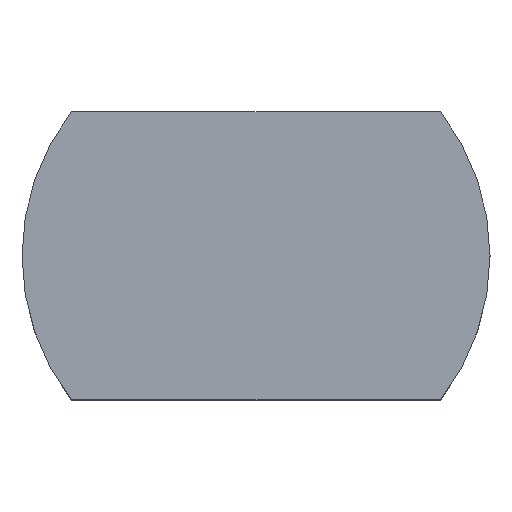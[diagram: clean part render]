
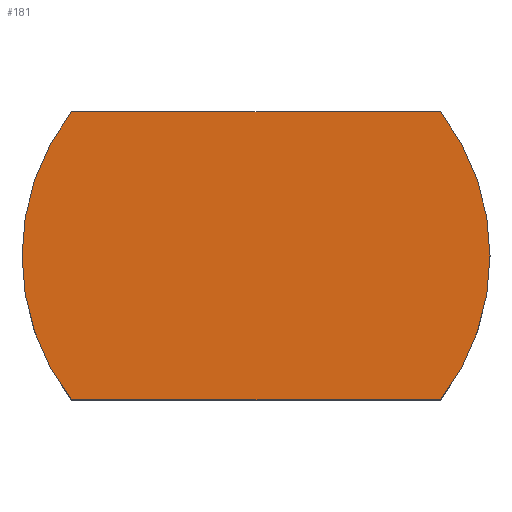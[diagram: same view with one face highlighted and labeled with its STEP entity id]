
A CAD part, top view. The second image highlights one B-rep face of the part: STEP entity #181.
In plain terms, the highlighted planar face has unit normal (0, 0, 1).
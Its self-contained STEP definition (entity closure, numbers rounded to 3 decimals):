
#2 = CARTESIAN_POINT ( 'NONE',  ( 0., 0., 51.5 ) ) ;
#6 = DIRECTION ( 'NONE',  ( 0., 0., 1. ) ) ;
#8 = DIRECTION ( 'NONE',  ( 1., 0., 0. ) ) ;
#63 = DIRECTION ( 'NONE',  ( 1., 0., 0. ) ) ;
#64 = CARTESIAN_POINT ( 'NONE',  ( 0., 0., 51.5 ) ) ;
#68 = PLANE ( 'NONE',  #236 ) ;
#83 = DIRECTION ( 'NONE',  ( 0., 0., 1. ) ) ;
#98 = CARTESIAN_POINT ( 'NONE',  ( 0., 2., 51.5 ) ) ;
#100 = DIRECTION ( 'NONE',  ( 1., 0., 0. ) ) ;
#104 = DIRECTION ( 'NONE',  ( 1., 0., 0. ) ) ;
#117 = CARTESIAN_POINT ( 'NONE',  ( 0., 0., 51.5 ) ) ;
#119 = DIRECTION ( 'NONE',  ( -1., 0., 0. ) ) ;
#122 = DIRECTION ( 'NONE',  ( 0., 0., 1. ) ) ;
#123 = CARTESIAN_POINT ( 'NONE',  ( 0., -2., 51.5 ) ) ;
#136 = CARTESIAN_POINT ( 'NONE',  ( -3.25, 0., 51.5 ) ) ;
#138 = CARTESIAN_POINT ( 'NONE',  ( -2.562, -2., 51.5 ) ) ;
#142 = CARTESIAN_POINT ( 'NONE',  ( 2.562, -2., 51.5 ) ) ;
#144 = CARTESIAN_POINT ( 'NONE',  ( 2.562, 2., 51.5 ) ) ;
#145 = DIRECTION ( 'NONE',  ( 0., 0., 1. ) ) ;
#151 = CARTESIAN_POINT ( 'NONE',  ( 0., 0., 51.5 ) ) ;
#152 = CARTESIAN_POINT ( 'NONE',  ( -2.562, 2., 51.5 ) ) ;
#161 = DIRECTION ( 'NONE',  ( 1., 0., 0. ) ) ;
#181 = ADVANCED_FACE ( 'NONE', ( #355 ), #68, .T. ) ;
#193 = EDGE_CURVE ( 'NONE', #373, #378, #367, .T. ) ;
#202 = AXIS2_PLACEMENT_3D ( 'NONE', #117, #122, #100 ) ;
#208 = EDGE_CURVE ( 'NONE', #373, #351, #392, .T. ) ;
#213 = EDGE_CURVE ( 'NONE', #385, #378, #393, .T. ) ;
#227 = AXIS2_PLACEMENT_3D ( 'NONE', #151, #145, #161 ) ;
#233 = EDGE_CURVE ( 'NONE', #385, #341, #403, .T. ) ;
#236 = AXIS2_PLACEMENT_3D ( 'NONE', #64, #83, #63 ) ;
#253 = AXIS2_PLACEMENT_3D ( 'NONE', #2, #6, #8 ) ;
#281 = EDGE_LOOP ( 'NONE', ( #335, #338, #303, #299, #306 ) ) ;
#299 = ORIENTED_EDGE ( 'NONE', *, *, #208, .F. ) ;
#303 = ORIENTED_EDGE ( 'NONE', *, *, #444, .T. ) ;
#306 = ORIENTED_EDGE ( 'NONE', *, *, #193, .T. ) ;
#335 = ORIENTED_EDGE ( 'NONE', *, *, #213, .F. ) ;
#338 = ORIENTED_EDGE ( 'NONE', *, *, #233, .T. ) ;
#341 = VERTEX_POINT ( 'NONE', #136 ) ;
#351 = VERTEX_POINT ( 'NONE', #138 ) ;
#355 = FACE_OUTER_BOUND ( 'NONE', #281, .T. ) ;
#367 = CIRCLE ( 'NONE', #202, 3.25 ) ;
#373 = VERTEX_POINT ( 'NONE', #142 ) ;
#378 = VERTEX_POINT ( 'NONE', #144 ) ;
#385 = VERTEX_POINT ( 'NONE', #152 ) ;
#392 = LINE ( 'NONE', #123, #417 ) ;
#393 = LINE ( 'NONE', #98, #425 ) ;
#403 = CIRCLE ( 'NONE', #227, 3.25 ) ;
#415 = CIRCLE ( 'NONE', #253, 3.25 ) ;
#417 = VECTOR ( 'NONE', #119, 1000. ) ;
#425 = VECTOR ( 'NONE', #104, 1000. ) ;
#444 = EDGE_CURVE ( 'NONE', #341, #351, #415, .T. ) ;
